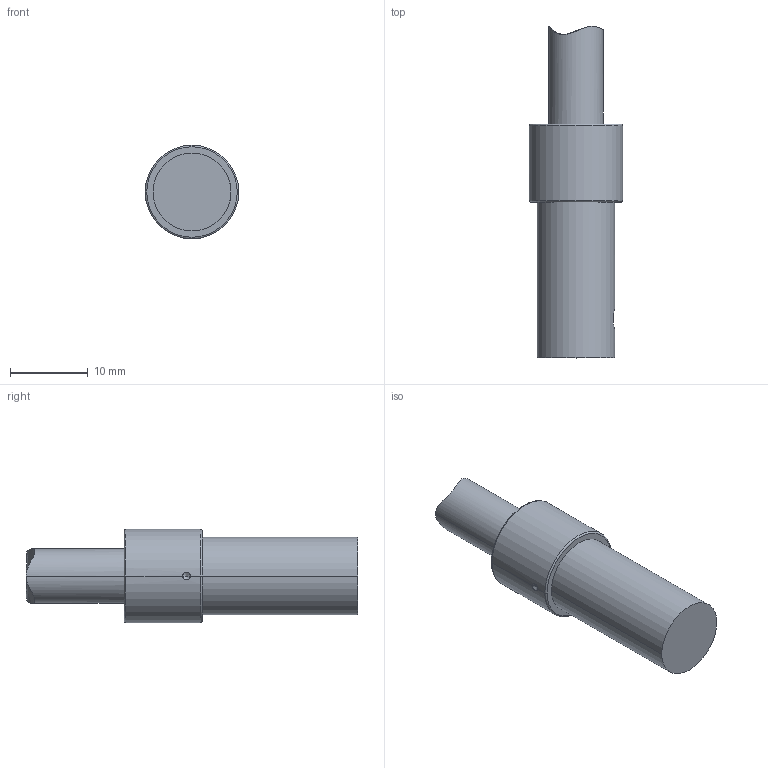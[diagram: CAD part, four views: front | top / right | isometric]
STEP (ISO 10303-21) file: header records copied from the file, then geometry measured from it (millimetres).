
FILE_DESCRIPTION((''),'2;1');
FILE_NAME('0000366414_PRT','2021-03-05T09:41:19',('pdmservice'),(''),'CREO PARAMETRIC BY PTC INC, 2018420','CREO PARAMETRIC BY PTC INC, 2018420','');
FILE_SCHEMA(('AUTOMOTIVE_DESIGN { 1 0 10303 214 1 1 1 1 }'));
Length unit declared in the file: millimetre
Products named in the file (1): 0000366414_PRT
Bounding box: 12 x 42.59 x 12 mm (x, y, z)
Volume: 3161.3 mm3; surface area: 1495.1 mm2
Topology: 1 solids, 1 shells, 21 faces, 44 edges, 25 vertices
Faces by surface type: cylinder 10, plane 4, torus 4, cone 2, extrusion 1
Entity records: 1827 total; most frequent: CARTESIAN_POINT 281, PROPERTY_DEFINITION 122, REPRESENTATION 121, PROPERTY_DEFINITION_REPRESENTATION 121, DESCRIPTIVE_REPRESENTATION_ITEM 109, GENERAL_PROPERTY 104, GENERAL_PROPERTY_ASSOCIATION 104, DIRECTION 99
